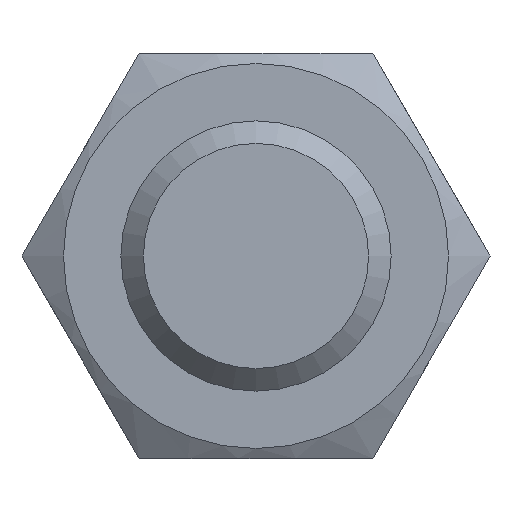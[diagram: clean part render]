
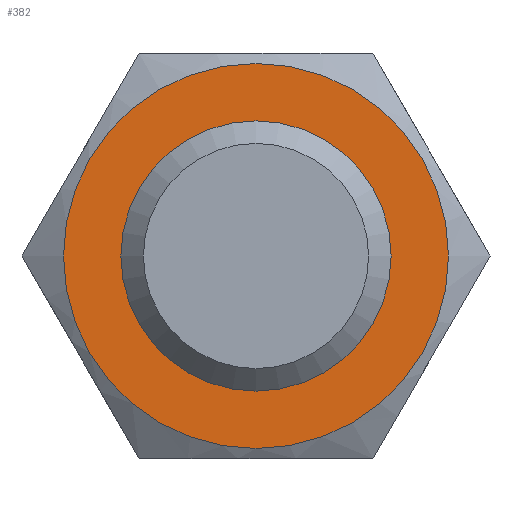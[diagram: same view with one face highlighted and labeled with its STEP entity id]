
A CAD part, left-side view. The second image highlights one B-rep face of the part: STEP entity #382.
In plain terms, the highlighted planar face has unit normal (-1, 0, 0) as drawn and (0, 0, 1) by its records, which use the part's own axes.
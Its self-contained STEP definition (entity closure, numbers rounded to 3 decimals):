
#382=ADVANCED_FACE('',(#684,#686),#688,.T.);
#684=FACE_BOUND('',#685,.T.);
#685=EDGE_LOOP('',(#865));
#686=FACE_BOUND('',#687,.T.);
#687=EDGE_LOOP('',(#866));
#688=PLANE('',#689);
#689=AXIS2_PLACEMENT_3D('',#690,#691,#692);
#690=CARTESIAN_POINT('',(0.,0.,21.5));
#691=DIRECTION('',(0.,0.,1.));
#692=DIRECTION('',(1.,0.,0.));
#865=ORIENTED_EDGE('',*,*,#949,.T.);
#866=ORIENTED_EDGE('',*,*,#950,.T.);
#949=EDGE_CURVE('',#1083,#1083,#1084,.F.);
#950=EDGE_CURVE('',#1085,#1085,#1086,.F.);
#1083=VERTEX_POINT('',#2570);
#1084=CIRCLE('',#2571,17.1);
#1085=VERTEX_POINT('',#2575);
#1086=CIRCLE('',#2576,12.);
#2570=CARTESIAN_POINT('',(0.,17.1,21.5));
#2571=AXIS2_PLACEMENT_3D('',#2572,#2573,#2574);
#2572=CARTESIAN_POINT('',(0.,0.,21.5));
#2573=DIRECTION('',(0.,0.,-1.));
#2574=DIRECTION('',(0.,1.,0.));
#2575=CARTESIAN_POINT('',(12.,0.,21.5));
#2576=AXIS2_PLACEMENT_3D('',#2577,#2578,#2579);
#2577=CARTESIAN_POINT('',(0.,0.,21.5));
#2578=DIRECTION('',(0.,0.,1.));
#2579=DIRECTION('',(1.,0.,0.));
